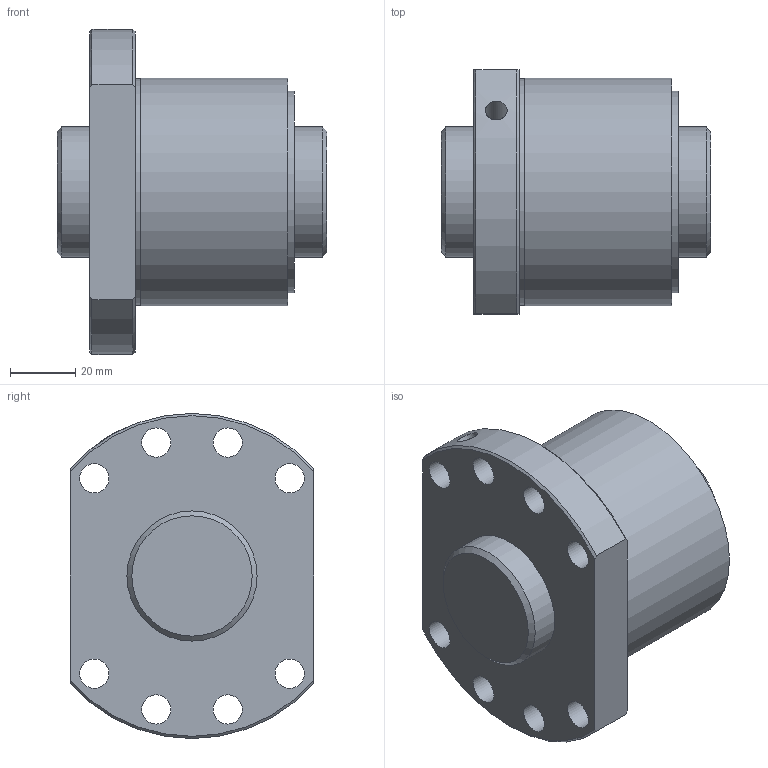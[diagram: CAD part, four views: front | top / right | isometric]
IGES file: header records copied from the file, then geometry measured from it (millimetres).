
Start section: Data from Parasolid IGES Translator 26.0.171, Copyright(c) 2006 Siemens PLM Software. All Rights Reserved.
Global section: file name: SDA4010VA-5G0+83LC0(0G000).igs; native system: By Siemens PLM Incorporated; preprocessor: XPlus GENERIC/IGES 26.0.171; author: Noname; organization: Noname; date: 20240528.114200; units: millimetre
Bounding box: 83 x 75 x 100 mm (x, y, z)
Surface area: 49140.2 mm2 (no closed solid volume)
Topology: 0 solids, 0 shells, 33 faces, 158 edges, 139 vertices
Faces by surface type: revolution 24, extrusion 9
